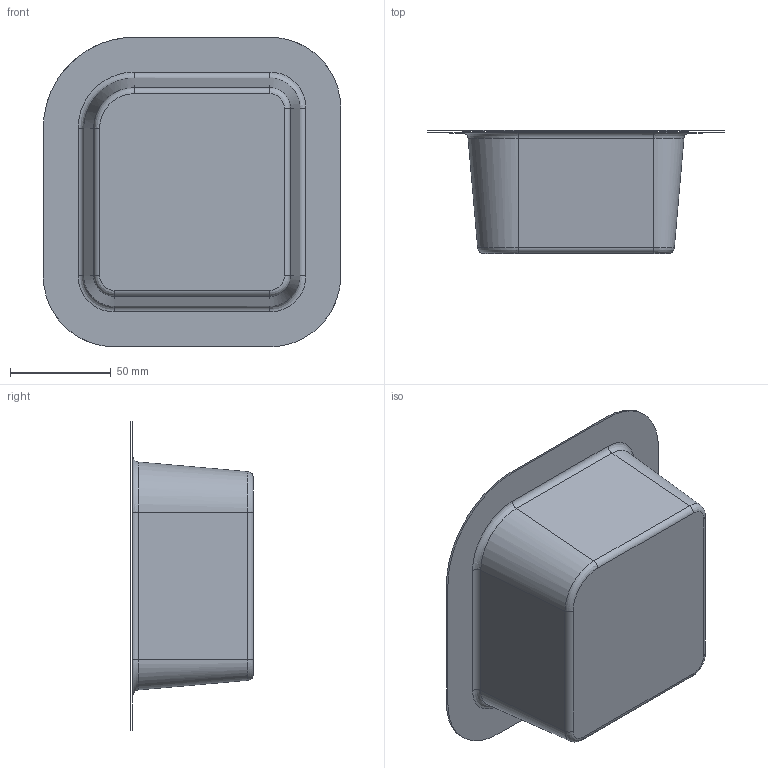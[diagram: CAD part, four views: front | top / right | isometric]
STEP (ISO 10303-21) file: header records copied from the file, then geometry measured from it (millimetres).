
FILE_DESCRIPTION(('CATIA V5 STEP Exchange'),'2;1');
FILE_NAME('C:\_Andres\UNIVERSIDAD\IQS\ASIGNATURAS\DAO\Controles\1617\c3\2inicio\Beteta_Pozo_control3_v3.stp','2017-02-17T14:22:01+00:00',('none'),('none'),'CATIA Version 5-6 Release 2014 SP1 HF18','CATIA V5 STEP AP203','none');
FILE_SCHEMA(('CONFIG_CONTROL_DESIGN'));
Length unit declared in the file: millimetre
Products named in the file (1): Beteta_Pozo_control3_v3
Bounding box: 147.46 x 60.77 x 153.46 mm (x, y, z)
Surface area: 63586.8 mm2 (no closed solid volume)
Topology: 0 solids, 2 shells, 27 faces, 80 edges, 57 vertices
Faces by surface type: bspline 16, cylinder 8, plane 3
Entity records: 1943 total; most frequent: CARTESIAN_POINT 1347, ORIENTED_EDGE 128, EDGE_CURVE 72, B_SPLINE_CURVE_WITH_KNOTS 54, DIRECTION 50, VERTEX_POINT 48, EDGE_LOOP 28, ADVANCED_FACE 27
